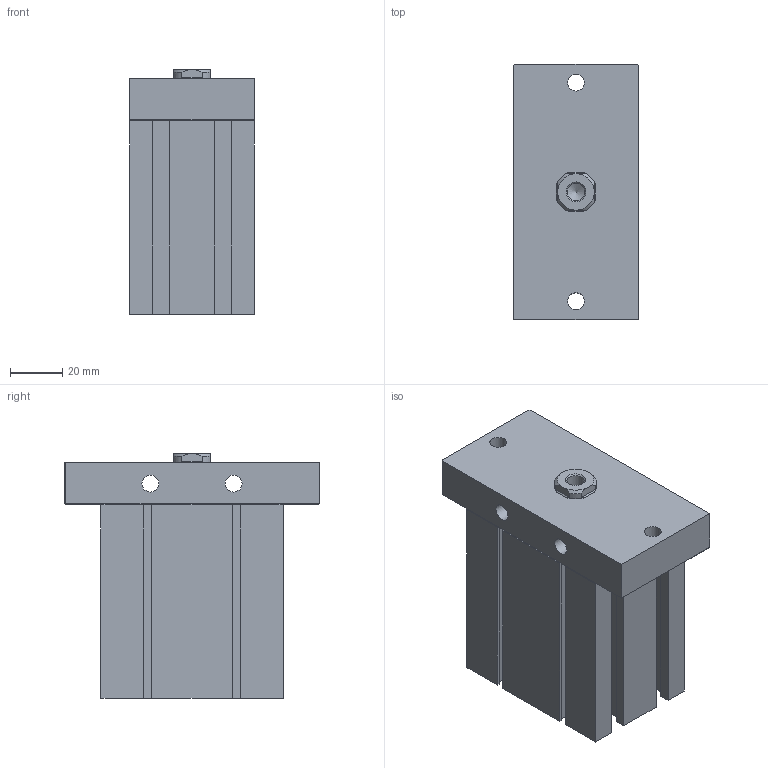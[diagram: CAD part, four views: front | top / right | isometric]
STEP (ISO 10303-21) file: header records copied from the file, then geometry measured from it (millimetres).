
FILE_DESCRIPTION((''),'2;1');
FILE_NAME('J:\3D電子目錄\氣缸\ND\ND\ND40-F\ND40x40-F.stp','2008-03-12T16:39:41',('66-2f-008'),(''),'Autodesk Inventor 11','Autodesk Inventor 11','');
FILE_SCHEMA(('AUTOMOTIVE_DESIGN { 1 0 10303 214 1 1 1 1 }'));
Length unit declared in the file: millimetre
Products named in the file (1): ND40-F
Bounding box: 48 x 98 x 94 mm (x, y, z)
Volume: 291591.4 mm3; surface area: 46786.8 mm2
Topology: 2 solids, 2 shells, 139 faces, 351 edges, 225 vertices
Faces by surface type: plane 99, bspline 16, cone 12, cylinder 11, torus 1
Full cylindrical faces by diameter (mm): 2.2 x2, 6.5 x2, 29 x1, 42 x1, 44.5 x1
Entity records: 4102 total; most frequent: CARTESIAN_POINT 908, ORIENTED_EDGE 634, DIRECTION 618, EDGE_CURVE 317, VECTOR 248, LINE 248, VERTEX_POINT 219, AXIS2_PLACEMENT_3D 185
